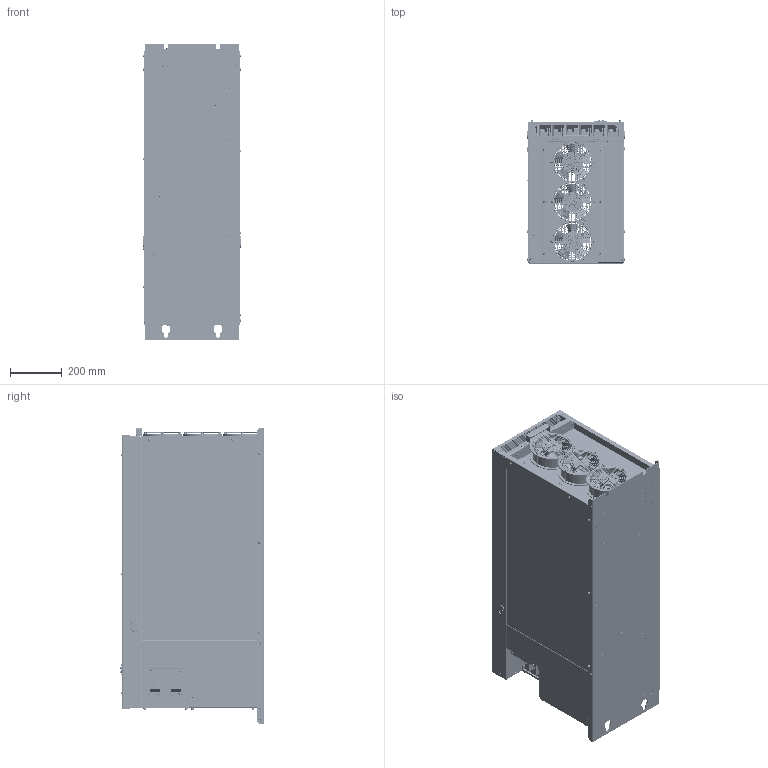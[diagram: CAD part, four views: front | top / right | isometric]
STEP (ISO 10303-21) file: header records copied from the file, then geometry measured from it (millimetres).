
FILE_DESCRIPTION(/* description */ (''),/* implementation_level */ '2;1');
FILE_NAME(/* name */ 'C:\Users\U390257\OneDrive - Danfoss\Documents\Работа\Текущие задачи\2022.04.26 Veichi 3D\Готовые модели\ac300-t3-250_280-3D\ac300-t3-250_280-3D.stp',/* time_stamp */ '2022-04-28T12:43:56+03:00',/* author */ ('U390257'),/* organization */ (''),/* preprocessor_version */ 'ST-DEVELOPER v18.1',/* originating_system */ 'Autodesk Inventor 2020',/* authorisation */ '');
FILE_SCHEMA (('AUTOMOTIVE_DESIGN { 1 0 10303 214 3 1 1 }'));
Products named in the file (37): ac300-t3-250_280-3D; AC300-T3-280G-D_ASM; AC300-T3-280G-P_ASM; AC300-T3-280G-P013_ASM; ASM0001_ASM; AC300-T3-280G-A_ASM; AC300-T3-220G-M001; AC300-T3-280G-0S_ASM; M5X14_GB9074_8; M4X60_GB9074_8; 24_VC0000000008-P0001; M6X20_GB9074_8; M8_45X45; M6_20X20; M8_30X30; M12_GB97_1; M12_GB93_87; M12X25_GB5783; M8X16_GB9074_13; M5X12_GB9074_13; M4X10_GB819_1; M6X16_GB9074_8; M3X8_GB9074_8; M4_GB97_1; M4_GB93_87; M4_GB6170; M5X12_GB9074_8; M4X10_GB9074_8; PF_M4X5; VEDAVFD; koleso_display; display_2; knopka_pusk; knopka_stop; knopka_prg2; knopka_jog_rev; tablichka_gc_v_a_2
Assembly tree (482 placements, depth 3):
  ac300-t3-250_280-3D
    AC300-T3-280G-D_ASM
    AC300-T3-280G-P_ASM
      AC300-T3-280G-P013_ASM
      ASM0001_ASM
    AC300-T3-280G-A_ASM
    AC300-T3-220G-M001
    AC300-T3-280G-0S_ASM
      M5X14_GB9074_8  x89
      M6X16_GB9074_8  x118
      M8X16_GB9074_13  x11
      M4X10_GB9074_8  x57
      M5X12_GB9074_8  x44
      M4X60_GB9074_8  x12
      M6X20_GB9074_8  x40
      24_VC0000000008-P0001  x4
      M8_45X45
      M6_20X20
      M8_30X30  x4
      M12_GB97_1  x8
      M12_GB93_87  x8
      M12X25_GB5783  x8
      M5X12_GB9074_13  x6
      M4X10_GB819_1  x4
      M3X8_GB9074_8  x29
      M4_GB97_1  x4
      M4_GB93_87  x4
      M4_GB6170  x4
      PF_M4X5  x11
    VEDAVFD
    koleso_display
    display_2
      knopka_pusk
      knopka_stop
      knopka_prg2
      knopka_jog_rev
    tablichka_gc_v_a_2
Bounding box: 380.47 x 552.07 x 1140 mm (x, y, z)
Volume: 10505760.4 mm3; surface area: 9523668 mm2
Topology: 861 solids, 1298 shells, 34554 faces, 91891 edges, 61892 vertices
Faces by surface type: plane 24390, cylinder 5696, bspline 2401, cone 802, torus 717, sphere 548
Full cylindrical faces by diameter (mm): 0.5 x494, 0.8 x30, 0.9 x8, 1 x18, 1.08 x1, 1.5 x4, 1.8 x4, 2 x24, 2.2 x18, 2.5 x89, 2.6 x6, 3 x48, 3.2 x1, 3.3 x13, 3.5 x75, 3.6 x61, 3.8 x20, 4 x219, 4.2 x169, 4.3 x4, 4.39 x14, 4.5 x171, 4.99 x28, 5 x313, 5.2 x7, 5.38 x61, 5.39 x42, 5.4 x124, 5.5 x32, 5.79 x3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
Entity records: 826937 total; most frequent: CARTESIAN_POINT 208892, ORIENTED_EDGE 128477, DIRECTION 120655, EDGE_CURVE 64265, LINE 45559, VECTOR 45559, VERTEX_POINT 42620, AXIS2_PLACEMENT_3D 37548
